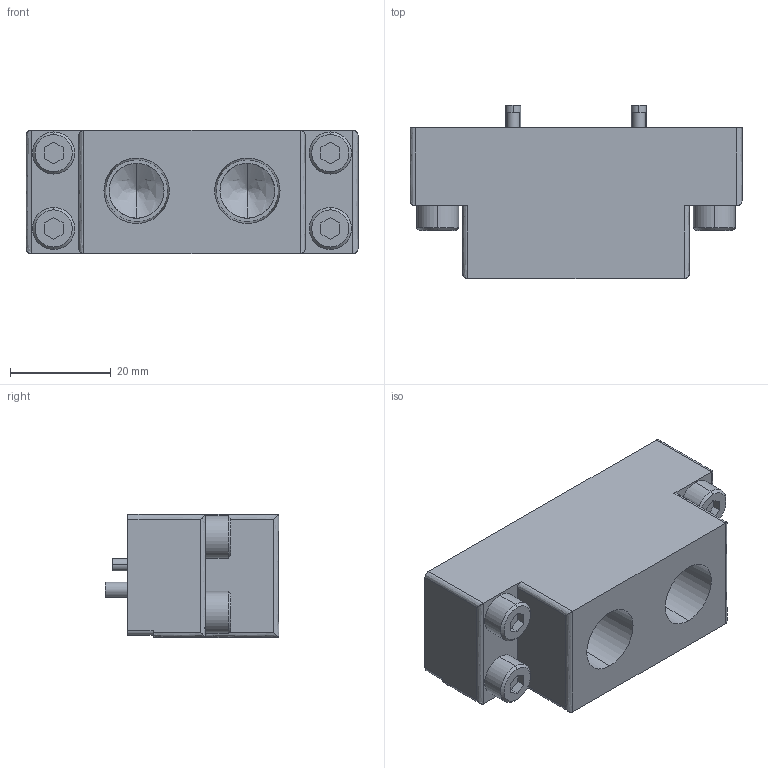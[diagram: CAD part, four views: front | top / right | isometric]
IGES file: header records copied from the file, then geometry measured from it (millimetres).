
Start section: 3D InterOp IGES (v. 2022 1.0.0), Spatial Corp. Copyright (c) 1999-2020.
Global section: file name: KHF-12RS-EP82_ver1.igs; native system: Spatial Corp.; preprocessor: 3D InterOp GENERIC/IGES 3.0; author: Noname; organization: Noname; date: 20260427.132211; units: millimetre
Bounding box: 66 x 34.5 x 24.5 mm (x, y, z)
Surface area: 12525.6 mm2 (no closed solid volume)
Topology: 0 solids, 0 shells, 201 faces, 898 edges, 894 vertices
Faces by surface type: revolution 105, extrusion 96
